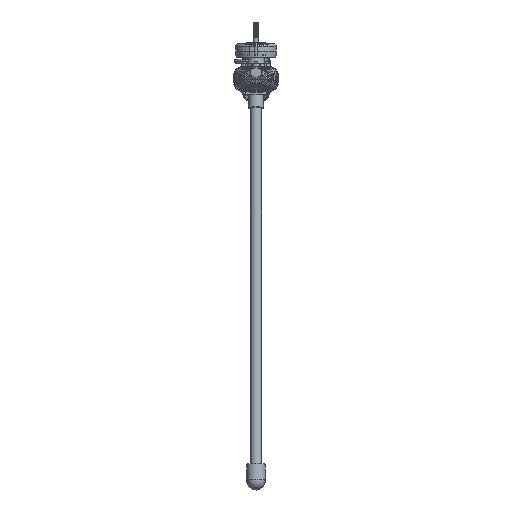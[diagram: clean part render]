
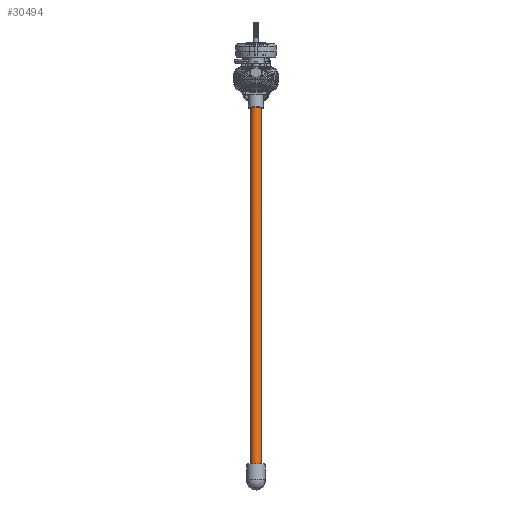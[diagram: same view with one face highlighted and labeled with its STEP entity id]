
A CAD part, left-side view. The second image highlights one B-rep face of the part: STEP entity #30494.
In plain terms, the highlighted cylindrical face has radius 5 mm (diameter 10 mm), a full revolution.
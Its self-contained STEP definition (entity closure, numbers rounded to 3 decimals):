
#30494 = ADVANCED_FACE('',(#30495),#30508,.T.);
#30495 = FACE_BOUND('',#30496,.T.);
#30496 = EDGE_LOOP('',(#30497,#30531,#30554,#30581));
#30497 = ORIENTED_EDGE('',*,*,#30498,.F.);
#30498 = EDGE_CURVE('',#30499,#30499,#30501,.T.);
#30499 = VERTEX_POINT('',#30500);
#30500 = CARTESIAN_POINT('',(147.015,265.,-368.627));
#30501 = SURFACE_CURVE('',#30502,(#30507,#30519),.PCURVE_S1.);
#30502 = CIRCLE('',#30503,5.);
#30503 = AXIS2_PLACEMENT_3D('',#30504,#30505,#30506);
#30504 = CARTESIAN_POINT('',(142.091,265.,-367.759));
#30505 = DIRECTION('',(-0.174,0.,-0.985));
#30506 = DIRECTION('',(0.985,0.,-0.174));
#30507 = PCURVE('',#30508,#30513);
#30508 = CYLINDRICAL_SURFACE('',#30509,5.);
#30509 = AXIS2_PLACEMENT_3D('',#30510,#30511,#30512);
#30510 = CARTESIAN_POINT('',(201.132,265.,-32.924));
#30511 = DIRECTION('',(-0.174,0.,-0.985));
#30512 = DIRECTION('',(0.985,0.,-0.174));
#30513 = DEFINITIONAL_REPRESENTATION('',(#30514),#30518);
#30514 = LINE('',#30515,#30516);
#30515 = CARTESIAN_POINT('',(0.,340.));
#30516 = VECTOR('',#30517,1.);
#30517 = DIRECTION('',(1.,0.));
#30518 = ( GEOMETRIC_REPRESENTATION_CONTEXT(2) 
PARAMETRIC_REPRESENTATION_CONTEXT() REPRESENTATION_CONTEXT('2D SPACE',''
  ) );
#30519 = PCURVE('',#30520,#30525);
#30520 = PLANE('',#30521);
#30521 = AXIS2_PLACEMENT_3D('',#30522,#30523,#30524);
#30522 = CARTESIAN_POINT('',(142.091,265.,-367.759));
#30523 = DIRECTION('',(-0.174,0.,-0.985));
#30524 = DIRECTION('',(0.985,0.,-0.174));
#30525 = DEFINITIONAL_REPRESENTATION('',(#30526),#30530);
#30526 = CIRCLE('',#30527,5.);
#30527 = AXIS2_PLACEMENT_2D('',#30528,#30529);
#30528 = CARTESIAN_POINT('',(0.,0.));
#30529 = DIRECTION('',(1.,0.));
#30530 = ( GEOMETRIC_REPRESENTATION_CONTEXT(2) 
PARAMETRIC_REPRESENTATION_CONTEXT() REPRESENTATION_CONTEXT('2D SPACE',''
  ) );
#30531 = ORIENTED_EDGE('',*,*,#30532,.F.);
#30532 = EDGE_CURVE('',#30533,#30499,#30535,.T.);
#30533 = VERTEX_POINT('',#30534);
#30534 = CARTESIAN_POINT('',(206.056,265.,-33.792));
#30535 = SEAM_CURVE('',#30536,(#30540,#30547),.PCURVE_S1.);
#30536 = LINE('',#30537,#30538);
#30537 = CARTESIAN_POINT('',(206.056,265.,-33.792));
#30538 = VECTOR('',#30539,1.);
#30539 = DIRECTION('',(-0.174,0.,-0.985));
#30540 = PCURVE('',#30508,#30541);
#30541 = DEFINITIONAL_REPRESENTATION('',(#30542),#30546);
#30542 = LINE('',#30543,#30544);
#30543 = CARTESIAN_POINT('',(6.283,-0.));
#30544 = VECTOR('',#30545,1.);
#30545 = DIRECTION('',(0.,1.));
#30546 = ( GEOMETRIC_REPRESENTATION_CONTEXT(2) 
PARAMETRIC_REPRESENTATION_CONTEXT() REPRESENTATION_CONTEXT('2D SPACE',''
  ) );
#30547 = PCURVE('',#30508,#30548);
#30548 = DEFINITIONAL_REPRESENTATION('',(#30549),#30553);
#30549 = LINE('',#30550,#30551);
#30550 = CARTESIAN_POINT('',(0.,-0.));
#30551 = VECTOR('',#30552,1.);
#30552 = DIRECTION('',(0.,1.));
#30553 = ( GEOMETRIC_REPRESENTATION_CONTEXT(2) 
PARAMETRIC_REPRESENTATION_CONTEXT() REPRESENTATION_CONTEXT('2D SPACE',''
  ) );
#30554 = ORIENTED_EDGE('',*,*,#30555,.T.);
#30555 = EDGE_CURVE('',#30533,#30533,#30556,.T.);
#30556 = SURFACE_CURVE('',#30557,(#30562,#30569),.PCURVE_S1.);
#30557 = CIRCLE('',#30558,5.);
#30558 = AXIS2_PLACEMENT_3D('',#30559,#30560,#30561);
#30559 = CARTESIAN_POINT('',(201.132,265.,-32.924));
#30560 = DIRECTION('',(-0.174,0.,-0.985));
#30561 = DIRECTION('',(0.985,0.,-0.174));
#30562 = PCURVE('',#30508,#30563);
#30563 = DEFINITIONAL_REPRESENTATION('',(#30564),#30568);
#30564 = LINE('',#30565,#30566);
#30565 = CARTESIAN_POINT('',(0.,0.));
#30566 = VECTOR('',#30567,1.);
#30567 = DIRECTION('',(1.,0.));
#30568 = ( GEOMETRIC_REPRESENTATION_CONTEXT(2) 
PARAMETRIC_REPRESENTATION_CONTEXT() REPRESENTATION_CONTEXT('2D SPACE',''
  ) );
#30569 = PCURVE('',#30570,#30575);
#30570 = PLANE('',#30571);
#30571 = AXIS2_PLACEMENT_3D('',#30572,#30573,#30574);
#30572 = CARTESIAN_POINT('',(201.132,265.,-32.924));
#30573 = DIRECTION('',(-0.174,0.,-0.985));
#30574 = DIRECTION('',(0.985,0.,-0.174));
#30575 = DEFINITIONAL_REPRESENTATION('',(#30576),#30580);
#30576 = CIRCLE('',#30577,5.);
#30577 = AXIS2_PLACEMENT_2D('',#30578,#30579);
#30578 = CARTESIAN_POINT('',(0.,0.));
#30579 = DIRECTION('',(1.,0.));
#30580 = ( GEOMETRIC_REPRESENTATION_CONTEXT(2) 
PARAMETRIC_REPRESENTATION_CONTEXT() REPRESENTATION_CONTEXT('2D SPACE',''
  ) );
#30581 = ORIENTED_EDGE('',*,*,#30532,.T.);
